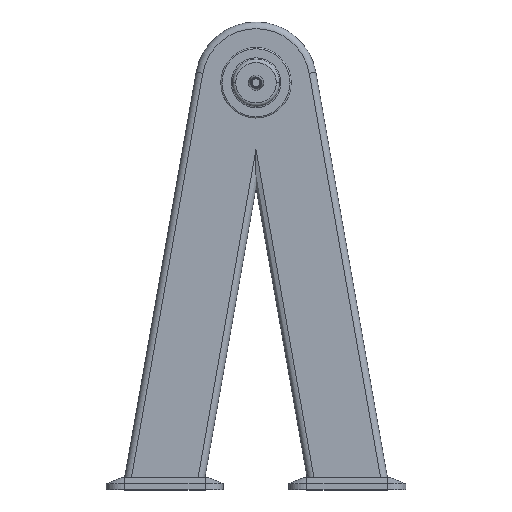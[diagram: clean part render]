
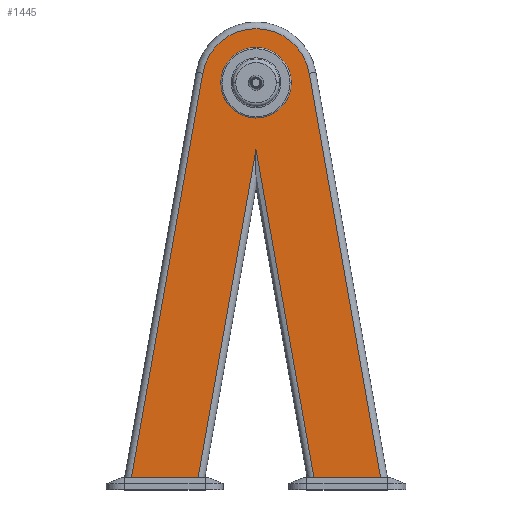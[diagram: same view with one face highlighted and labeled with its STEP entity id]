
A CAD part, top view. The second image highlights one B-rep face of the part: STEP entity #1445.
In plain terms, the highlighted planar face has unit normal (0, 0, 1).
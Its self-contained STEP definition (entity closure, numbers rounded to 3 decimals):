
#74 = CARTESIAN_POINT ( 'NONE',  ( 0., 560.583, 63. ) ) ;
#81 = CARTESIAN_POINT ( 'NONE',  ( 0., 670., 63. ) ) ;
#104 = ORIENTED_EDGE ( 'NONE', *, *, #1720, .F. ) ;
#117 = CIRCLE ( 'NONE', #1005, 58. ) ;
#122 = AXIS2_PLACEMENT_3D ( 'NONE', #541, #2096, #778 ) ;
#251 = DIRECTION ( 'NONE',  ( 0., 0., 1. ) ) ;
#315 = DIRECTION ( 'NONE',  ( 1., 0., 0. ) ) ;
#339 = CARTESIAN_POINT ( 'NONE',  ( -58., 670., 63. ) ) ;
#410 = VECTOR ( 'NONE', #900, 1000. ) ;
#430 = CARTESIAN_POINT ( 'NONE',  ( -87.648, 685.455, 63. ) ) ;
#431 = LINE ( 'NONE', #2345, #533 ) ;
#488 = DIRECTION ( 'NONE',  ( 0.174, -0.985, 0. ) ) ;
#498 = ORIENTED_EDGE ( 'NONE', *, *, #1872, .T. ) ;
#529 = ORIENTED_EDGE ( 'NONE', *, *, #2180, .F. ) ;
#533 = VECTOR ( 'NONE', #824, 1000. ) ;
#541 = CARTESIAN_POINT ( 'NONE',  ( 0., 670., 63. ) ) ;
#609 = ORIENTED_EDGE ( 'NONE', *, *, #2292, .F. ) ;
#637 = CARTESIAN_POINT ( 'NONE',  ( 0., 20., 63. ) ) ;
#679 = CIRCLE ( 'NONE', #2792, 89. ) ;
#695 = ORIENTED_EDGE ( 'NONE', *, *, #1294, .T. ) ;
#716 = VERTEX_POINT ( 'NONE', #430 ) ;
#740 = AXIS2_PLACEMENT_3D ( 'NONE', #840, #2362, #1086 ) ;
#763 = VECTOR ( 'NONE', #2306, 1000. ) ;
#774 = CARTESIAN_POINT ( 'NONE',  ( -10.833, 499.147, 63. ) ) ;
#778 = DIRECTION ( 'NONE',  ( 1., 0., 0. ) ) ;
#782 = CIRCLE ( 'NONE', #740, 58. ) ;
#788 = CARTESIAN_POINT ( 'NONE',  ( 58., 670., 63. ) ) ;
#821 = CARTESIAN_POINT ( 'NONE',  ( -95.319, 20., 63. ) ) ;
#824 = DIRECTION ( 'NONE',  ( -0.174, 0.985, 0. ) ) ;
#840 = CARTESIAN_POINT ( 'NONE',  ( 0., 670., 63. ) ) ;
#900 = DIRECTION ( 'NONE',  ( -1., 0., 0. ) ) ;
#966 = CARTESIAN_POINT ( 'NONE',  ( -209.907, -7.91, 63. ) ) ;
#1005 = AXIS2_PLACEMENT_3D ( 'NONE', #1627, #251, #1836 ) ;
#1025 = VECTOR ( 'NONE', #2783, 1000. ) ;
#1033 = VERTEX_POINT ( 'NONE', #1094 ) ;
#1086 = DIRECTION ( 'NONE',  ( 1., 0., 0. ) ) ;
#1094 = CARTESIAN_POINT ( 'NONE',  ( 87.648, 685.455, 63. ) ) ;
#1116 = LINE ( 'NONE', #2199, #410 ) ;
#1155 = EDGE_LOOP ( 'NONE', ( #1600, #529 ) ) ;
#1163 = VERTEX_POINT ( 'NONE', #2793 ) ;
#1248 = EDGE_LOOP ( 'NONE', ( #609, #1706, #498, #104, #1863, #1574, #695 ) ) ;
#1294 = EDGE_CURVE ( 'NONE', #716, #1743, #2331, .T. ) ;
#1377 = FACE_OUTER_BOUND ( 'NONE', #1248, .T. ) ;
#1445 = ADVANCED_FACE ( 'NONE', ( #1936, #1377 ), #1464, .T. ) ;
#1448 = VERTEX_POINT ( 'NONE', #74 ) ;
#1451 = EDGE_CURVE ( 'NONE', #1033, #716, #679, .T. ) ;
#1464 = PLANE ( 'NONE',  #122 ) ;
#1474 = VERTEX_POINT ( 'NONE', #788 ) ;
#1574 = ORIENTED_EDGE ( 'NONE', *, *, #1451, .T. ) ;
#1592 = EDGE_CURVE ( 'NONE', #1163, #1033, #431, .T. ) ;
#1600 = ORIENTED_EDGE ( 'NONE', *, *, #2428, .F. ) ;
#1614 = LINE ( 'NONE', #637, #1025 ) ;
#1627 = CARTESIAN_POINT ( 'NONE',  ( 0., 670., 63. ) ) ;
#1683 = DIRECTION ( 'NONE',  ( 0., 0., 1. ) ) ;
#1705 = VECTOR ( 'NONE', #2462, 1000. ) ;
#1706 = ORIENTED_EDGE ( 'NONE', *, *, #2014, .T. ) ;
#1720 = EDGE_CURVE ( 'NONE', #1163, #2579, #1614, .T. ) ;
#1743 = VERTEX_POINT ( 'NONE', #1782 ) ;
#1776 = LINE ( 'NONE', #2251, #2779 ) ;
#1782 = CARTESIAN_POINT ( 'NONE',  ( -204.986, 20., 63. ) ) ;
#1836 = DIRECTION ( 'NONE',  ( 1., 0., 0. ) ) ;
#1863 = ORIENTED_EDGE ( 'NONE', *, *, #1592, .T. ) ;
#1872 = EDGE_CURVE ( 'NONE', #1448, #2579, #1776, .T. ) ;
#1891 = CARTESIAN_POINT ( 'NONE',  ( 95.319, 20., 63. ) ) ;
#1936 = FACE_BOUND ( 'NONE', #1155, .T. ) ;
#1939 = LINE ( 'NONE', #774, #763 ) ;
#2014 = EDGE_CURVE ( 'NONE', #2139, #1448, #1939, .T. ) ;
#2096 = DIRECTION ( 'NONE',  ( 0., 0., 1. ) ) ;
#2121 = VERTEX_POINT ( 'NONE', #339 ) ;
#2139 = VERTEX_POINT ( 'NONE', #821 ) ;
#2180 = EDGE_CURVE ( 'NONE', #1474, #2121, #782, .T. ) ;
#2199 = CARTESIAN_POINT ( 'NONE',  ( 0., 20., 63. ) ) ;
#2251 = CARTESIAN_POINT ( 'NONE',  ( 101.432, -14.664, 63. ) ) ;
#2292 = EDGE_CURVE ( 'NONE', #2139, #1743, #1116, .T. ) ;
#2306 = DIRECTION ( 'NONE',  ( 0.174, 0.985, 0. ) ) ;
#2331 = LINE ( 'NONE', #966, #1705 ) ;
#2345 = CARTESIAN_POINT ( 'NONE',  ( 87.648, 685.455, 63. ) ) ;
#2362 = DIRECTION ( 'NONE',  ( 0., 0., 1. ) ) ;
#2428 = EDGE_CURVE ( 'NONE', #2121, #1474, #117, .T. ) ;
#2462 = DIRECTION ( 'NONE',  ( -0.174, -0.985, 0. ) ) ;
#2579 = VERTEX_POINT ( 'NONE', #1891 ) ;
#2779 = VECTOR ( 'NONE', #488, 1000. ) ;
#2783 = DIRECTION ( 'NONE',  ( -1., 0., 0. ) ) ;
#2792 = AXIS2_PLACEMENT_3D ( 'NONE', #81, #1683, #315 ) ;
#2793 = CARTESIAN_POINT ( 'NONE',  ( 204.986, 20., 63. ) ) ;
